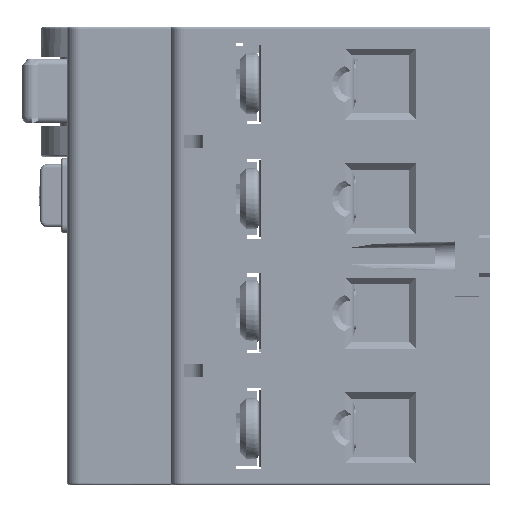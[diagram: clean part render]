
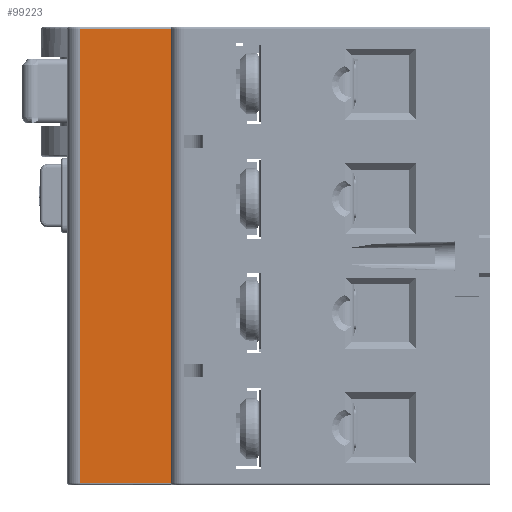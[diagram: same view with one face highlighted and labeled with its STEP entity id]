
A CAD part, left-side view. The second image highlights one B-rep face of the part: STEP entity #99223.
In plain terms, the highlighted planar face has unit normal (-1, 0, 0).
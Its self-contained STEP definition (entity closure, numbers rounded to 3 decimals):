
#8238 = EDGE_CURVE ( 'NONE', #106310, #220233, #23602, .T. ) ;
#9541 = ORIENTED_EDGE ( 'NONE', *, *, #111758, .T. ) ;
#23602 = LINE ( 'NONE', #44910, #77451 ) ;
#25255 = LINE ( 'NONE', #123905, #136157 ) ;
#39658 = AXIS2_PLACEMENT_3D ( 'NONE', #160446, #243526, #163047 ) ;
#44910 = CARTESIAN_POINT ( 'NONE',  ( -22.502, 44., -35.2 ) ) ;
#48532 = VECTOR ( 'NONE', #90856, 1000. ) ;
#54685 = CARTESIAN_POINT ( 'NONE',  ( -22.502, 58., 35.2 ) ) ;
#59554 = ORIENTED_EDGE ( 'NONE', *, *, #213097, .T. ) ;
#62466 = ORIENTED_EDGE ( 'NONE', *, *, #137488, .T. ) ;
#75180 = CARTESIAN_POINT ( 'NONE',  ( -22.502, 44., 35.2 ) ) ;
#77451 = VECTOR ( 'NONE', #89033, 1000. ) ;
#77519 = ORIENTED_EDGE ( 'NONE', *, *, #8238, .T. ) ;
#83200 = DIRECTION ( 'NONE',  ( 0., 0., -1. ) ) ;
#89033 = DIRECTION ( 'NONE',  ( 0., 0., 1. ) ) ;
#90856 = DIRECTION ( 'NONE',  ( 0., -1., 0. ) ) ;
#95201 = FACE_OUTER_BOUND ( 'NONE', #180810, .T. ) ;
#99223 = ADVANCED_FACE ( 'NONE', ( #95201 ), #180744, .T. ) ;
#105957 = DIRECTION ( 'NONE',  ( 0., 1., 0. ) ) ;
#106310 = VERTEX_POINT ( 'NONE', #227392 ) ;
#109804 = VERTEX_POINT ( 'NONE', #245971 ) ;
#111179 = CARTESIAN_POINT ( 'NONE',  ( -22.502, 58., -35.2 ) ) ;
#111758 = EDGE_CURVE ( 'NONE', #170002, #109804, #25255, .T. ) ;
#123905 = CARTESIAN_POINT ( 'NONE',  ( -22.502, 58., 35.2 ) ) ;
#126319 = CARTESIAN_POINT ( 'NONE',  ( -22.502, 44., 35.2 ) ) ;
#136157 = VECTOR ( 'NONE', #83200, 1000. ) ;
#137488 = EDGE_CURVE ( 'NONE', #109804, #106310, #165475, .T. ) ;
#160446 = CARTESIAN_POINT ( 'NONE',  ( -22.502, 60., -35.5 ) ) ;
#163047 = DIRECTION ( 'NONE',  ( 0., 0., 1. ) ) ;
#165475 = LINE ( 'NONE', #111179, #48532 ) ;
#170002 = VERTEX_POINT ( 'NONE', #54685 ) ;
#180744 = PLANE ( 'NONE',  #39658 ) ;
#180810 = EDGE_LOOP ( 'NONE', ( #9541, #62466, #77519, #59554 ) ) ;
#203546 = LINE ( 'NONE', #126319, #247939 ) ;
#213097 = EDGE_CURVE ( 'NONE', #220233, #170002, #203546, .T. ) ;
#220233 = VERTEX_POINT ( 'NONE', #75180 ) ;
#227392 = CARTESIAN_POINT ( 'NONE',  ( -22.502, 44., -35.2 ) ) ;
#243526 = DIRECTION ( 'NONE',  ( -1., 0., 0. ) ) ;
#245971 = CARTESIAN_POINT ( 'NONE',  ( -22.502, 58., -35.2 ) ) ;
#247939 = VECTOR ( 'NONE', #105957, 1000. ) ;
